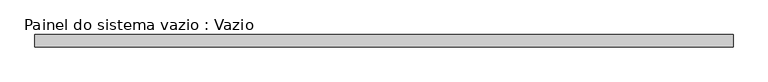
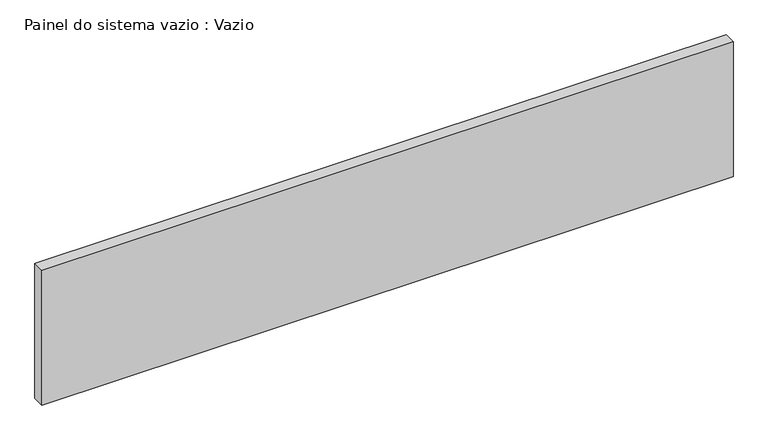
"""IFC4 building model written with IfcOpenShell, lengths in millimetres: plate geometry, Painel do sistema vazio : Vazio."""

from ifc_helpers import new_model, si_unit, origin, origin_with_axes, place, context, project, spatial, polyline, outline, extrude, source, transform, mapped, element, save


def painel_do_sistema_vazio_vazio_720ce80a(model_context):
    return source(origin(), model_context, "Body", "SweptSolid", [
        extrude(outline(polyline([(2825.0, -50.0), (-2825.0, -50.0), (-2825.0, 50.0), (2825.0, 50.0), (2825.0, -50.0)])), origin_with_axes(), (0.0, 0.0, 1.0), 1165.0),
    ])


if __name__ == "__main__":
    model = new_model("IFC4")
    model_context = context("Model", 3, world=origin())
    ifc_project = project(units=[si_unit("LENGTHUNIT", "METRE", prefix="MILLI")], contexts=[model_context])
    site = spatial("IfcSite", under=ifc_project)
    building = spatial("IfcBuilding", under=site)
    placement = place(None, origin())
    painel_do_sistema_vazio_vazio_shape = painel_do_sistema_vazio_vazio_720ce80a(model_context)
    element("IfcPlate", 1, ObjectType="Painel do sistema vazio : Vazio", at=placement, inside=building, context=model_context, shape_type="MappedRepresentation", body=[
        mapped(painel_do_sistema_vazio_vazio_shape, transform((0.0, 0.0, 0.0), x_axis=(1.0, 0.0, 0.0), y_axis=(0.0, 1.0, 0.0), z_axis=(0.0, 0.0, 1.0))),
    ])
    save(model, "model.ifc")
